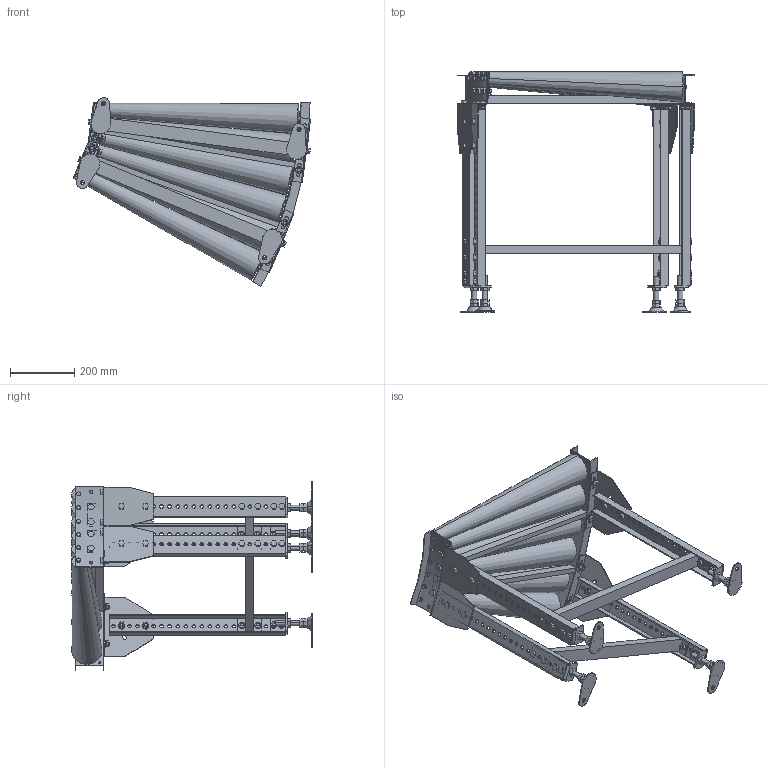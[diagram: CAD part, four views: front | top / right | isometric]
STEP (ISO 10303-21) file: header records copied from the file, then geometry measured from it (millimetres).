
FILE_DESCRIPTION (( 'STEP AP214' ), '1' );
FILE_NAME ('MRT-C5-600-50-30.STEP', '2022-09-27T09:23:24', ( '' ), ( '' ), 'SwSTEP 2.0', 'SolidWorks 2017', '' );
FILE_SCHEMA (( 'AUTOMOTIVE_DESIGN' ));
Length unit declared in the file: millimetre
Products named in the file (1): MRT-C5-600-50-30
Bounding box: 740.49 x 750 x 589.18 mm (x, y, z)
Volume: 17703559 mm3; surface area: 2157226.2 mm2
Topology: 19 solids, 41 shells, 1979 faces, 4730 edges, 2972 vertices
Faces by surface type: plane 1453, cylinder 506, cone 20
Entity records: 81801 total; most frequent: CARTESIAN_POINT 12570, DIRECTION 10106, ORIENTED_EDGE 9460, EDGE_CURVE 4730, AXIS2_PLACEMENT_3D 3496, VECTOR 3114, LINE 3114, VERTEX_POINT 2972
